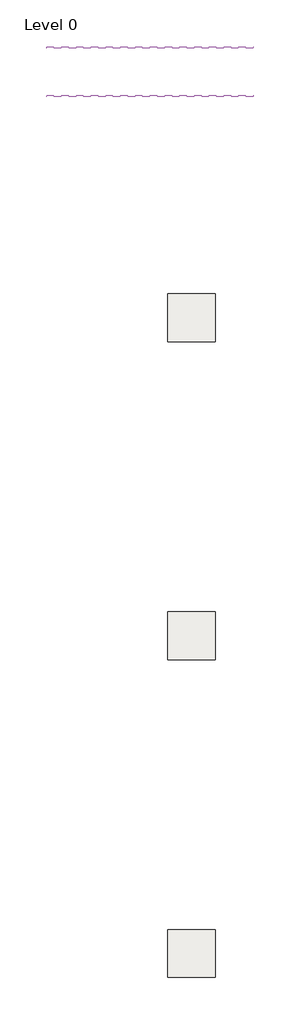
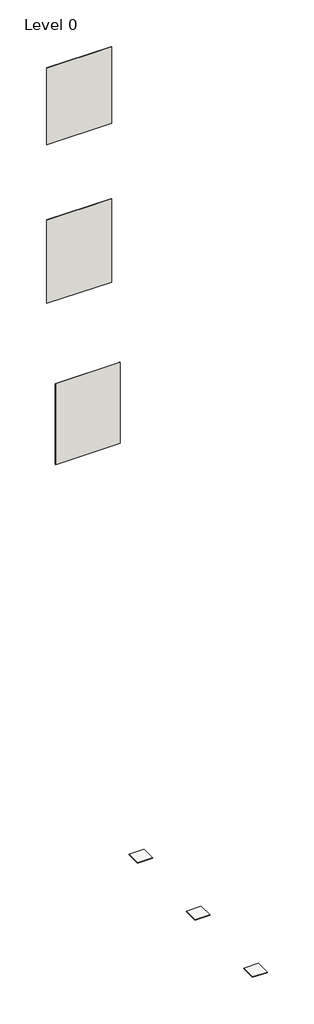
# One storey: 3 slabs, 3 walls.
"""IFC4 building model written with IfcOpenShell, lengths in millimetres."""

from ifc_helpers import new_model, si_unit, frame, origin, place, context, project, spatial, polyline, outline, extrude, element, save

model = new_model("IFC4")

# Units and contexts
model_context = context("Model", 3, world=origin())
ifc_project = project(units=[si_unit("LENGTHUNIT", "METRE", prefix="MILLI")], contexts=[model_context])

# Site, building, storey
site = spatial("IfcSite", under=ifc_project)
building = spatial("IfcBuilding", under=site)
storey = spatial("IfcBuildingStorey", under=building, Name="Level 0", Elevation=0.0)

# Slabs
placement = place(None, origin())
element("IfcSlab", 1, ObjectType="Floor_Tiles_Refin-Prestigio-Arcadia-Lucido-Mosaico-Macro-30x30 NA38", at=placement, inside=storey, context=model_context, shape_type="SweptSolid", body=[
    extrude(outline(polyline([(6679.6861419, 6289.4623743), (6679.6861419, 6589.4623743), (6979.6861419, 6589.4623743), (6979.6861419, 6289.4623743), (6679.6861419, 6289.4623743)])), frame((0.0, 0.0, -10.0), z_axis=(0.0, 0.0, 1.0), x_axis=(1.0, 0.0, 0.0)), (0.0, 0.0, 1.0), 10.0),
])
element("IfcSlab", 2, ObjectType="Floor_Tiles_Refin-Prestigio-Impero-Lucido-Mosaico-Macro-30x30 NA39", at=placement, inside=storey, context=model_context, shape_type="SweptSolid", body=[
    extrude(outline(polyline([(6679.6861419, 4289.4623743), (6679.6861419, 4589.4623743), (6979.6861419, 4589.4623743), (6979.6861419, 4289.4623743), (6679.6861419, 4289.4623743)])), frame((0.0, 0.0, -10.0), z_axis=(0.0, 0.0, 1.0), x_axis=(1.0, 0.0, 0.0)), (0.0, 0.0, 1.0), 10.0),
])
element("IfcSlab", 3, ObjectType="Floor_Tiles_Refin-Prestigio-Marquinia-Lucido-Mosaico-Macro-30x30 NA40", at=placement, inside=storey, context=model_context, shape_type="SweptSolid", body=[
    extrude(outline(polyline([(6679.6861419, 2289.4623743), (6679.6861419, 2589.4623743), (6979.6861419, 2589.4623743), (6979.6861419, 2289.4623743), (6679.6861419, 2289.4623743)])), frame((0.0, 0.0, -10.0), z_axis=(0.0, 0.0, 1.0), x_axis=(1.0, 0.0, 0.0)), (0.0, 0.0, 1.0), 10.0),
])

# Walls
element("IfcWall", 4, ObjectType="Wall_Tiles_Refin-Prestigio-Impero-Lucido-Mosaico-Macro-30x30 NA39", at=placement, inside=storey, context=model_context, shape_type="SweptSolid", body=[
    extrude(outline(polyline([(7217.3752062, 8132.3838631), (5917.3752062, 8132.3838631), (5917.3752062, 8142.3838631), (7217.3752062, 8142.3838631), (7217.3752062, 8132.3838631)])), frame((0.0, 0.0, 11032.4382753), z_axis=(0.0, 0.0, 1.0), x_axis=(1.0, 0.0, 0.0)), (0.0, 0.0, 1.0), 1767.5617247),
])
element("IfcWall", 5, ObjectType="Wall_Tiles_Refin-Prestigio-Arcadia-Lucido-Mosaico-Macro-30x30 NA38", at=placement, inside=storey, context=model_context, shape_type="SweptSolid", body=[
    extrude(outline(polyline([(7217.3752062, 8132.3838631), (5917.3752062, 8132.3838631), (5917.3752062, 8142.3838631), (7217.3752062, 8142.3838631), (7217.3752062, 8132.3838631)])), frame((0.0, 0.0, 14403.7267346), z_axis=(0.0, 0.0, 1.0), x_axis=(1.0, 0.0, 0.0)), (0.0, 0.0, 1.0), 1625.692045),
])
element("IfcWall", 6, ObjectType="Wall_Tiles_Refin-Prestigio-Marquinia-Lucido-Mosaico-Macro-30x30 NA40", at=placement, inside=storey, context=model_context, shape_type="SweptSolid", body=[
    extrude(outline(polyline([(7217.3752062, 7827.3838631), (5917.3752062, 7827.3838631), (5917.3752062, 7837.3838631), (7217.3752062, 7837.3838631), (7217.3752062, 7827.3838631)])), frame((0.0, 0.0, 7790.2321988), z_axis=(0.0, 0.0, 1.0), x_axis=(1.0, 0.0, 0.0)), (0.0, 0.0, 1.0), 1720.3786716),
])

save(model, "model.ifc")
